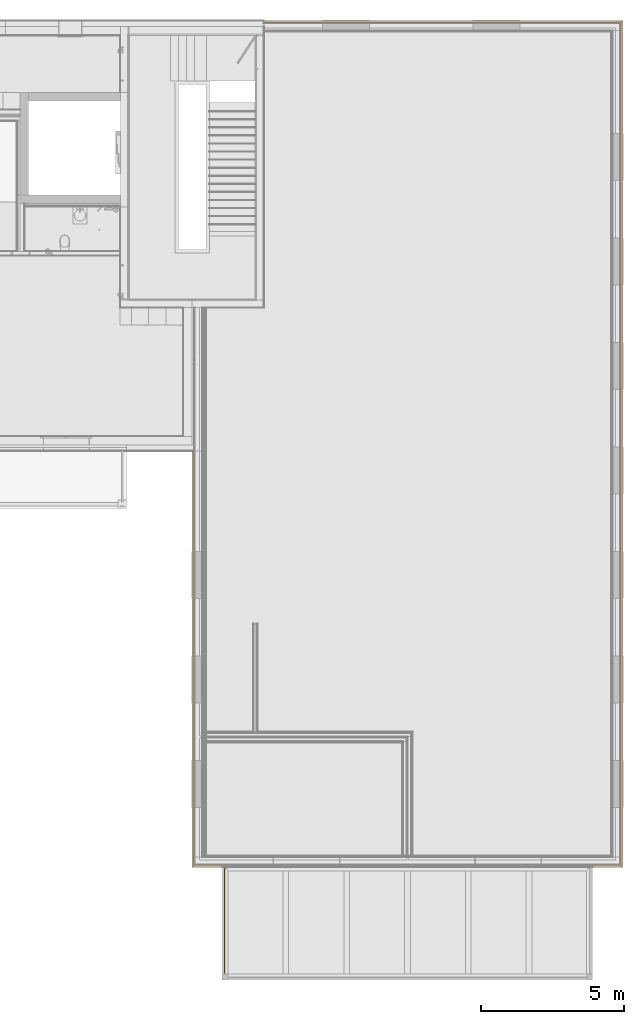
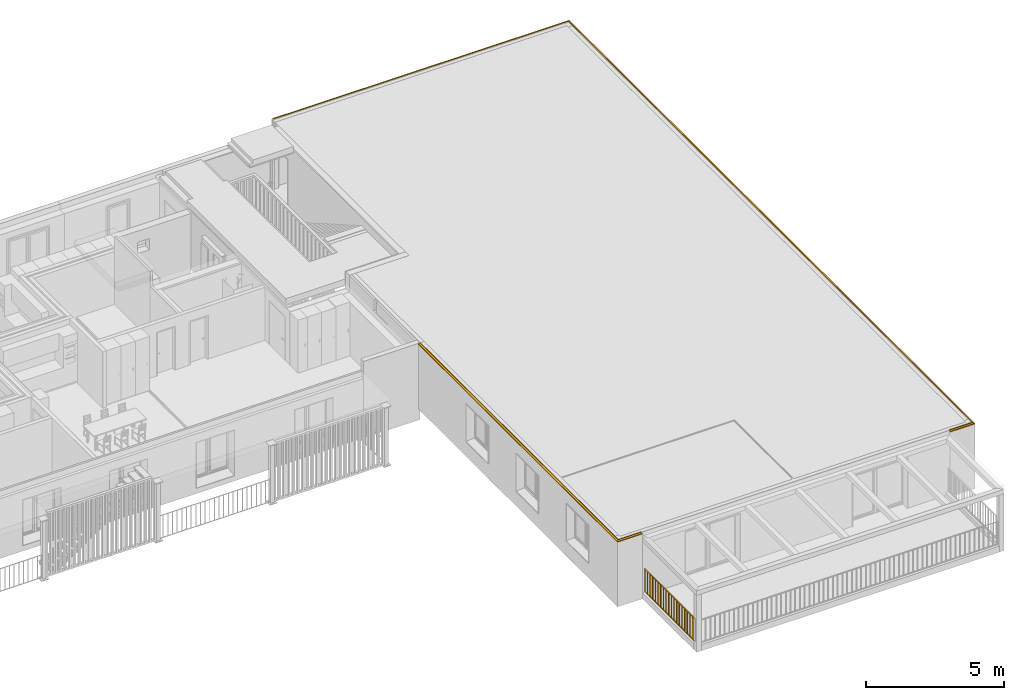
# One storey, part 19 of 34: 5 curtain walls, 1 railing.
"""IFC4 building model written with IfcOpenShell, lengths in millimetres."""

from ifc_helpers import new_model, entity, si_unit, converted_unit, derived_unit, direction, frame, origin_with_axes, place, context, subcontext, project, spatial, polygons, material, constituent, constituent_set, type_object, element, save


model = new_model("IFC4")

# Units and contexts
model_context = context("Model", 3, precision=0.01, world=origin_with_axes(), true_north=direction((0.0, 1.0)))
body_context = subcontext(model_context, "Body", "Model", "MODEL_VIEW")
ifc_project = project(units=[si_unit("LENGTHUNIT", "METRE", prefix="MILLI"), si_unit("AREAUNIT", "SQUARE_METRE"), si_unit("VOLUMEUNIT", "CUBIC_METRE"), converted_unit("PLANEANGLEUNIT", "DEGREE", entity("IfcPlaneAngleMeasure", 0.0174532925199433), si_unit("PLANEANGLEUNIT", "RADIAN"), dimensions=[0, 0, 0, 0, 0, 0, 0]), converted_unit("TIMEUNIT", "Year", entity("IfcTimeMeasure", 31557600.0), si_unit("TIMEUNIT", "SECOND"), dimensions=[0, 0, 1, 0, 0, 0, 0]), si_unit("MASSUNIT", "GRAM", prefix="KILO"), si_unit("THERMODYNAMICTEMPERATUREUNIT", "DEGREE_CELSIUS"), si_unit("LUMINOUSINTENSITYUNIT", "LUMEN"), si_unit("ENERGYUNIT", "JOULE", prefix="MEGA"), derived_unit("THERMALCONDUCTANCEUNIT", [(si_unit("POWERUNIT", "WATT"), 1), (si_unit("LENGTHUNIT", "METRE"), -1), (si_unit("THERMODYNAMICTEMPERATUREUNIT", "KELVIN"), -1)]), derived_unit("SPECIFICHEATCAPACITYUNIT", [(si_unit("ENERGYUNIT", "JOULE"), 1), (si_unit("MASSUNIT", "GRAM", prefix="KILO"), -1), (si_unit("THERMODYNAMICTEMPERATUREUNIT", "KELVIN"), -1)]), derived_unit("MASSDENSITYUNIT", [(si_unit("MASSUNIT", "GRAM", prefix="KILO"), 1), (si_unit("VOLUMEUNIT", "CUBIC_METRE"), -1)])], contexts=[model_context])

# Site, building, storey
site_placement = place(None, origin_with_axes())
site = spatial("IfcSite", under=ifc_project, at=site_placement, Name="Gelände", CompositionType="ELEMENT")
building_placement = place(site_placement, origin_with_axes())
building = spatial("IfcBuilding", under=site, at=building_placement, Name="Gebäude", CompositionType="ELEMENT")
storey_placement = place(building_placement, frame((0.0, 0.0, 5799.999999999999), z_axis=(0.0, 0.0, 1.0), x_axis=(1.0, 0.0, 0.0)))
storey = spatial("IfcBuildingStorey", under=building, at=storey_placement, Name="2.OG", CompositionType="ELEMENT", Elevation=5800.0)

# Curtain walls
ifc_material = material(Name="Stahl")
ifc_constituent_1 = constituent(ifc_material, Name="Stahl")
ifc_constituent_set_1 = constituent_set(constituents=[ifc_constituent_1], Name="Fassadentrennblech 01")
curtain_wall_type = type_object("IfcCurtainWallType", Name="Fassadentrennblech 01 80 x 71", PredefinedType="NOTDEFINED")
curtain_wall_1_placement = place(storey_placement, frame((32857.99744391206, 37876.59726257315, 3400.0), z_axis=(0.0, 0.0, 1.0), x_axis=(1.512977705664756e-09, 1.0, 0.0)))
element("IfcCurtainWall", 1, at=curtain_wall_1_placement, inside=storey, type_object=curtain_wall_type, material=ifc_constituent_set_1, Name="Unterzug-032", PredefinedType="NOTDEFINED", context=body_context, shape_type="Tessellation", body=[
    polygons([(0.0, 0.0, 9.685927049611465), (0.0, 12388.99999914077, 9.685927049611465), (77.40470302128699, 12388.99999914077, 2.044753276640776), (77.40470302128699, -77.40470290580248, 2.044753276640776), (0.0, 0.0, 42.69563025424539), (0.0, 12388.99999914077, 42.69563025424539), (2.700001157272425, 12388.99999914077, 42.69563025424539), (2.700001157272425, 12388.99999914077, 12.52688023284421), (80.10479082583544, 12388.99999914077, 4.571509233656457), (80.10474928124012, 12388.99999914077, -27.95524672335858), (77.40470302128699, 12388.99999914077, -27.95524672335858), (77.40470302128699, -77.40470290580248, -27.95524672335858), (80.1047492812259, -80.10474916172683, -27.95524672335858), (80.10479082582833, -80.10479070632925, 4.571509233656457), (2.700001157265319, -2.700001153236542, 12.52688023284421), (2.700001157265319, -2.700001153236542, 42.69563025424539)], [[[1, 2, 3, 4]], [[5, 6, 2, 1]], [[3, 2, 6, 7, 8, 9, 10, 11]], [[4, 3, 11, 12]], [[5, 1, 4, 12, 13, 14, 15, 16]], [[16, 7, 6, 5]], [[15, 8, 7, 16]], [[14, 9, 8, 15]], [[13, 10, 9, 14]], [[12, 11, 10, 13]]], closed=True),
])
ifc_constituent_2 = constituent(ifc_material, Name="Stahl")
ifc_constituent_set_2 = constituent_set(constituents=[ifc_constituent_2], Name="Fassadentrennblech 01")
curtain_wall_2_placement = place(storey_placement, frame((32857.9974432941, 8518.597281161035, 3400.0), z_axis=(0.0, 0.0, 1.0), x_axis=(0.0, 1.0, 0.0)))
element("IfcCurtainWall", 2, at=curtain_wall_2_placement, inside=storey, type_object=curtain_wall_type, material=ifc_constituent_set_2, Name="Unterzug-032", PredefinedType="NOTDEFINED", context=body_context, shape_type="Tessellation", body=[
    polygons([(0.0, 0.0, 42.69563025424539), (0.0, 975.000025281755, 42.69563025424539), (-2.700001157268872, 975.000025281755, 42.69563025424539), (-2.700001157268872, -2.700001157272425, 42.69563025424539), (0.0, 0.0, 9.685927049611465), (0.0, 975.000025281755, 9.685927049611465), (-77.40470302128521, 975.0000252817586, 2.044753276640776), (-77.40470302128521, 975.0000252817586, -27.95524672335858), (-80.10474928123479, 975.0000252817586, -27.95524672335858), (-80.10479082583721, 975.0000252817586, 4.571509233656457), (-2.700001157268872, 975.000025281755, 12.52688023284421), (-2.700001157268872, -2.700001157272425, 12.52688023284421), (-80.10479082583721, -80.10479082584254, 4.571509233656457), (-80.10474928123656, -80.10474928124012, -27.95524672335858), (-77.40470302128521, -77.4047030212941, -27.95524672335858), (-77.40470302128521, -77.4047030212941, 2.044753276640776)], [[[1, 2, 3, 4]], [[5, 6, 2, 1]], [[3, 2, 6, 7, 8, 9, 10, 11]], [[4, 3, 11, 12]], [[5, 1, 4, 12, 13, 14, 15, 16]], [[16, 7, 6, 5]], [[15, 8, 7, 16]], [[14, 9, 8, 15]], [[13, 10, 9, 14]], [[12, 11, 10, 13]]], closed=True),
])
ifc_constituent_3 = constituent(ifc_material, Name="Stahl")
ifc_constituent_set_3 = constituent_set(constituents=[ifc_constituent_3], Name="Fassadentrennblech 01")
curtain_wall_3_placement = place(storey_placement, frame((32857.99744391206, 37876.59726257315, 3400.0), z_axis=(0.0, 0.0, 1.0), x_axis=(-1.0, 0.0, 0.0)))
element("IfcCurtainWall", 3, at=curtain_wall_3_placement, inside=storey, type_object=curtain_wall_type, material=ifc_constituent_set_3, Name="Unterzug-032", PredefinedType="NOTDEFINED", context=body_context, shape_type="Tessellation", body=[
    polygons([(0.0, 0.0, 42.69563025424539), (0.0, 29357.99998141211, 42.69563025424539), (-2.700001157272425, 29360.69998256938, 42.69563025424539), (-2.700001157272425, -2.700001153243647, 42.69563025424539), (0.0, 0.0, 9.685927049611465), (0.0, 29357.99998141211, 9.685927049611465), (-77.40470302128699, 29435.4046844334, 2.044753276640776), (-77.40470302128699, 29435.4046844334, -27.95524672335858), (-80.10474928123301, 29438.10473069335, -27.95524672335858), (-80.10479082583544, 29438.10477223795, 4.571509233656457), (-2.700001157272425, 29360.69998256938, 12.52688023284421), (-2.700001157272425, -2.700001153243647, 12.52688023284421), (-80.10479082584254, -80.10479070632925, 4.571509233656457), (-80.10474928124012, -80.10474916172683, -27.95524672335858), (-77.40470302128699, -77.40470290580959, -27.95524672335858), (-77.40470302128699, -77.40470290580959, 2.044753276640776)], [[[1, 2, 3, 4]], [[5, 6, 2, 1]], [[3, 2, 6, 7, 8, 9, 10, 11]], [[4, 3, 11, 12]], [[5, 1, 4, 12, 13, 14, 15, 16]], [[16, 7, 6, 5]], [[15, 8, 7, 16]], [[14, 9, 8, 15]], [[13, 10, 9, 14]], [[12, 11, 10, 13]]], closed=True),
])
ifc_constituent_4 = constituent(ifc_material, Name="Stahl")
ifc_constituent_set_4 = constituent_set(constituents=[ifc_constituent_4], Name="Fassadentrennblech 01")
curtain_wall_4_placement = place(storey_placement, frame((17999.99744477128, 8518.597281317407, 3400.0), z_axis=(0.0, 0.0, 1.0), x_axis=(0.0, -1.0, 0.0)))
element("IfcCurtainWall", 4, at=curtain_wall_4_placement, inside=storey, type_object=curtain_wall_type, material=ifc_constituent_set_4, Name="Unterzug-032", PredefinedType="NOTDEFINED", context=body_context, shape_type="Tessellation", body=[
    polygons([(0.0, 0.0, 9.685927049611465), (0.0, 975.0000252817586, 9.685927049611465), (77.40470302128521, 975.0000252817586, 2.044753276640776), (77.40470302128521, -77.40470302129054, 2.044753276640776), (0.0, 0.0, 42.69563025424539), (0.0, 975.0000252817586, 42.69563025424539), (2.700001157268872, 975.0000252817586, 42.69563025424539), (2.700001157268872, 975.0000252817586, 12.52688023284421), (80.10479082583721, 975.0000252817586, 4.571509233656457), (80.10474928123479, 975.0000252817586, -27.95524672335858), (77.40470302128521, 975.0000252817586, -27.95524672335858), (77.40470302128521, -77.40470302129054, -27.95524672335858), (80.10474928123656, -80.10474928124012, -27.95524672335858), (80.10479082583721, -80.10479082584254, 4.571509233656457), (2.700001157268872, -2.700001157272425, 12.52688023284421), (2.700001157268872, -2.700001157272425, 42.69563025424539)], [[[1, 2, 3, 4]], [[5, 6, 2, 1]], [[3, 2, 6, 7, 8, 9, 10, 11]], [[4, 3, 11, 12]], [[5, 1, 4, 12, 13, 14, 15, 16]], [[16, 7, 6, 5]], [[15, 8, 7, 16]], [[14, 9, 8, 15]], [[13, 10, 9, 14]], [[12, 11, 10, 13]]], closed=True),
])
ifc_constituent_5 = constituent(ifc_material, Name="Stahl")
ifc_constituent_set_5 = constituent_set(constituents=[ifc_constituent_5], Name="Fassadentrennblech 01")
curtain_wall_5_placement = place(storey_placement, frame((17999.99744477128, 22947.48446271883, 3400.0), z_axis=(0.0, 0.0, 1.0), x_axis=(-1.0, 0.0, 0.0)))
element("IfcCurtainWall", 5, at=curtain_wall_5_placement, inside=storey, type_object=curtain_wall_type, material=ifc_constituent_set_5, Name="Unterzug-032", PredefinedType="NOTDEFINED", context=body_context, shape_type="Tessellation", body=[
    polygons([(80.10474928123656, 0.0, -27.95524672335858), (80.10478498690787, 0.0, 0.0), (77.40470302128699, 0.0, 0.0), (77.40470302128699, 0.0, -27.95524672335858), (80.10474928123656, 4.8877219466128, -27.95524672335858), (80.10478498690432, 4.8877219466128, 0.0), (77.40470302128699, 4.887721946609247, 0.0), (77.40470302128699, 4.887721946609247, -27.95524672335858)], [[[1, 2, 3, 4]], [[5, 6, 2, 1]], [[6, 7, 3, 2]], [[3, 7, 8, 4]], [[4, 8, 5, 1]], [[5, 8, 7, 6]]], closed=True),
    polygons([(77.40470302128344, 14506.29188442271, 2.044753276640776), (77.40470302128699, 7.587809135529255, 2.044753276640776), (72.52204029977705, 7.587809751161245, 2.526755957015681), (72.5220402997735, 0.0, 2.526755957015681), (0.0, 0.0, 9.685927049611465), (0.0, 14428.88718140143, 9.685927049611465), (77.40470302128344, 14506.29188442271, -27.95524672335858), (77.40470302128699, 7.587770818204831, -27.95524672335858), (80.10478821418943, 7.587809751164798, 2.526755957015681), (80.10474928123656, 7.587770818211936, -27.95524672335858), (80.10478821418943, 0.0, 2.526755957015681), (80.10479082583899, 0.0, 4.571509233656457), (2.700001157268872, 0.0, 12.52688023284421), (2.700001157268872, 0.0, 42.69563025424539), (0.0, 0.0, 42.69563025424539), (0.0, 14428.88718140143, 42.69563025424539), (2.700001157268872, 14431.5871825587, 42.69563025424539), (2.700001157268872, 14431.5871825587, 12.52688023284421), (80.10479082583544, 14508.99197222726, 4.571509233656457), (80.10474928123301, 14508.99193068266, -27.95524672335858)], [[[1, 2, 3, 4, 5, 6]], [[7, 8, 2, 1]], [[9, 3, 2, 8, 10]], [[9, 11, 4, 3]], [[5, 4, 11, 12, 13, 14, 15]], [[5, 15, 16, 6]], [[7, 1, 6, 16, 17, 18, 19, 20]], [[20, 10, 8, 7]], [[11, 9, 10, 20, 19, 12]], [[13, 12, 19, 18]], [[14, 13, 18, 17]], [[15, 14, 17, 16]]], closed=True),
])

# Railing
ifc_constituent_6 = constituent(ifc_material, Name="Stahl 1")
ifc_constituent_7 = constituent(ifc_material, Name="Stahl 2")
ifc_constituent_8 = constituent(ifc_material, Name="Stahl 3")
ifc_constituent_9 = constituent(ifc_material, Name="Stahl 4")
ifc_constituent_10 = constituent(ifc_material, Name="Stahl 5")
ifc_constituent_11 = constituent(ifc_material, Name="Stahl 6")
ifc_constituent_12 = constituent(ifc_material, Name="Stahl 7")
ifc_constituent_13 = constituent(ifc_material, Name="Stahl 8")
ifc_constituent_14 = constituent(ifc_material, Name="Stahl 9")
ifc_constituent_15 = constituent(ifc_material, Name="Stahl 10")
ifc_constituent_16 = constituent(ifc_material, Name="Stahl 11")
ifc_constituent_17 = constituent(ifc_material, Name="Stahl 12")
ifc_constituent_18 = constituent(ifc_material, Name="Stahl 13")
ifc_constituent_19 = constituent(ifc_material, Name="Stahl 14")
ifc_constituent_20 = constituent(ifc_material, Name="Stahl 15")
ifc_constituent_21 = constituent(ifc_material, Name="Stahl 16")
ifc_constituent_22 = constituent(ifc_material, Name="Stahl 17")
ifc_constituent_23 = constituent(ifc_material, Name="Stahl 18")
ifc_constituent_24 = constituent(ifc_material, Name="Stahl 19")
ifc_constituent_25 = constituent(ifc_material, Name="Stahl 20")
ifc_constituent_26 = constituent(ifc_material, Name="Stahl 21")
ifc_constituent_27 = constituent(ifc_material, Name="Stahl 22")
ifc_constituent_28 = constituent(ifc_material, Name="Stahl 23")
ifc_constituent_29 = constituent(ifc_material, Name="Stahl 24")
ifc_constituent_30 = constituent(ifc_material, Name="Stahl 25")
ifc_constituent_31 = constituent(ifc_material, Name="Stahl 26")
ifc_constituent_32 = constituent(ifc_material, Name="Stahl 27")
ifc_constituent_set_6 = constituent_set(constituents=[ifc_constituent_6, ifc_constituent_7, ifc_constituent_8, ifc_constituent_9, ifc_constituent_10, ifc_constituent_11, ifc_constituent_12, ifc_constituent_13, ifc_constituent_14, ifc_constituent_15, ifc_constituent_16, ifc_constituent_17, ifc_constituent_18, ifc_constituent_19, ifc_constituent_20, ifc_constituent_21, ifc_constituent_22, ifc_constituent_23, ifc_constituent_24, ifc_constituent_25, ifc_constituent_26, ifc_constituent_27, ifc_constituent_28, ifc_constituent_29, ifc_constituent_30, ifc_constituent_31, ifc_constituent_32])
railing_type = type_object("IfcRailingType", Name="Geländerart", PredefinedType="NOTDEFINED")
railing_placement = place(storey_placement, frame((19056.34286617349, 8422.597281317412, 819.0765727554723), z_axis=(0.0, 0.0, 1.0), x_axis=(1.0, 0.0, 0.0)))
element("IfcRailing", 6, at=railing_placement, inside=storey, type_object=railing_type, material=ifc_constituent_set_6, Name="Geländer-003", PredefinedType="NOTDEFINED", context=body_context, shape_type="Tessellation", body=[
    polygons([(-19.99999999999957, -7.500000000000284, 0.0), (19.99999999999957, -7.500000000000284, 0.0), (19.99999999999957, -7.500000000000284, 1000.0), (-19.99999999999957, -7.500000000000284, 1000.0), (-19.99999999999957, 7.500000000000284, 0.0), (19.99999999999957, 7.500000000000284, 0.0), (19.99999999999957, 7.500000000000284, 1000.0), (-19.99999999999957, 7.500000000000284, 1000.0)], [[[1, 2, 3, 4]], [[1, 5, 6, 2]], [[2, 6, 7, 3]], [[4, 3, 7, 8]], [[5, 1, 4, 8]], [[6, 5, 8, 7]]], closed=True),
    polygons([(22.50000000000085, 0.0, 1000.0), (22.50000000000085, 0.0, 985.0000000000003), (22.50000000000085, 7.500000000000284, 985.0000000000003), (22.50000000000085, 7.500000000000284, 1000.0), (-22.50000000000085, 0.0, 1000.0), (-22.50000000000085, 0.0, 985.0000000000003), (-22.50000000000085, 7.500000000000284, 985.0000000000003), (-22.50000000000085, 7.500000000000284, 1000.0)], [[[1, 2, 3, 4]], [[1, 5, 6, 2]], [[2, 6, 7, 3]], [[4, 3, 7, 8]], [[5, 1, 4, 8]], [[6, 5, 8, 7]]], closed=True),
    polygons([(-19.99999999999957, -3679.941464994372, 0.0), (19.99999999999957, -3679.941464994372, 0.0), (19.99999999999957, -3679.941464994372, 1000.0), (-19.99999999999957, -3679.941464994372, 1000.0), (-19.99999999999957, -3664.941464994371, 0.0), (19.99999999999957, -3664.941464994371, 0.0), (19.99999999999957, -3664.941464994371, 1000.0), (-19.99999999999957, -3664.941464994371, 1000.0)], [[[1, 2, 3, 4]], [[1, 5, 6, 2]], [[2, 6, 7, 3]], [[4, 3, 7, 8]], [[5, 1, 4, 8]], [[6, 5, 8, 7]]], closed=True),
    polygons([(-19.99999999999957, -3686.500000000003, 0.0), (19.99999999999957, -3686.500000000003, 0.0), (19.99999999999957, -3686.500000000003, 1000.0), (-19.99999999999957, -3686.500000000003, 1000.0), (-19.99999999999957, -3671.500000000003, 0.0), (19.99999999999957, -3671.500000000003, 0.0), (19.99999999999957, -3671.500000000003, 1000.0), (-19.99999999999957, -3671.500000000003, 1000.0)], [[[1, 2, 3, 4]], [[1, 5, 6, 2]], [[2, 6, 7, 3]], [[4, 3, 7, 8]], [[5, 1, 4, 8]], [[6, 5, 8, 7]]], closed=True),
    polygons([(-22.50000000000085, -3679.000000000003, 1000.0), (-22.50000000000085, -3679.000000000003, 985.0000000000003), (-22.50000000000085, -3686.500000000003, 985.0000000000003), (-22.50000000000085, -3686.500000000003, 1000.0), (22.50000000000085, -3679.000000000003, 1000.0), (22.50000000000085, -3679.000000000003, 985.0000000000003), (22.50000000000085, -3686.500000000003, 985.0000000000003), (22.50000000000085, -3686.500000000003, 1000.0)], [[[1, 2, 3, 4]], [[1, 5, 6, 2]], [[2, 6, 7, 3]], [[4, 3, 7, 8]], [[5, 1, 4, 8]], [[6, 5, 8, 7]]], closed=True),
    polygons([(-22.5, 0.0, 1.000000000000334), (-22.5, 0.0, -13.99999999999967), (-22.5, -3672.441464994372, -13.99999999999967), (-22.5, -3672.441464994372, 1.000000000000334), (22.5, 0.0, 1.000000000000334), (22.5, 0.0, -13.99999999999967), (22.5, -3672.441464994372, -13.99999999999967), (22.5, -3672.441464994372, 1.000000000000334)], [[[1, 2, 3, 4]], [[1, 5, 6, 2]], [[2, 6, 7, 3]], [[4, 3, 7, 8]], [[5, 1, 4, 8]], [[6, 5, 8, 7]]], closed=True),
    polygons([(-22.5, 0.0, 1000.0), (-22.5, 0.0, 985.0), (-22.5, -3672.441464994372, 985.0), (-22.5, -3672.441464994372, 1000.0), (22.5, 0.0, 1000.0), (22.5, 0.0, 985.0), (22.5, -3672.441464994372, 985.0), (22.5, -3672.441464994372, 1000.0)], [[[1, 2, 3, 4]], [[1, 5, 6, 2]], [[2, 6, 7, 3]], [[4, 3, 7, 8]], [[5, 1, 4, 8]], [[6, 5, 8, 7]]], closed=True),
    polygons([(-22.50000000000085, -200.7863928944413, 0.0), (22.50000000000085, -200.7863928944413, 0.0), (22.50000000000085, -200.7863928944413, 985.2293691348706), (-22.50000000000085, -200.7863928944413, 985.2293691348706), (-22.50000000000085, -185.7863928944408, 0.0), (22.50000000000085, -185.7863928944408, 0.0), (22.50000000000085, -185.7863928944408, 985.2293691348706), (-22.50000000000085, -185.7863928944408, 985.2293691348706)], [[[1, 2, 3, 4]], [[1, 5, 6, 2]], [[2, 6, 7, 3]], [[4, 3, 7, 8]], [[5, 1, 4, 8]], [[6, 5, 8, 7]]], closed=True),
    polygons([(-22.50000000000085, -394.0727857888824, 0.0), (22.50000000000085, -394.0727857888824, 0.0), (22.50000000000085, -394.0727857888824, 985.2293691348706), (-22.50000000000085, -394.0727857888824, 985.2293691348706), (-22.50000000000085, -379.0727857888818, 0.0), (22.50000000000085, -379.0727857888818, 0.0), (22.50000000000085, -379.0727857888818, 985.2293691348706), (-22.50000000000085, -379.0727857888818, 985.2293691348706)], [[[1, 2, 3, 4]], [[1, 5, 6, 2]], [[2, 6, 7, 3]], [[4, 3, 7, 8]], [[5, 1, 4, 8]], [[6, 5, 8, 7]]], closed=True),
    polygons([(-22.50000000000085, -587.3591786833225, 0.0), (22.50000000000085, -587.3591786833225, 0.0), (22.50000000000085, -587.3591786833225, 985.2293691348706), (-22.50000000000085, -587.3591786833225, 985.2293691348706), (-22.50000000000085, -572.3591786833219, 0.0), (22.50000000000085, -572.3591786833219, 0.0), (22.50000000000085, -572.3591786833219, 985.2293691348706), (-22.50000000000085, -572.3591786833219, 985.2293691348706)], [[[1, 2, 3, 4]], [[1, 5, 6, 2]], [[2, 6, 7, 3]], [[4, 3, 7, 8]], [[5, 1, 4, 8]], [[6, 5, 8, 7]]], closed=True),
    polygons([(-22.50000000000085, -780.6455715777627, 0.0), (22.50000000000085, -780.6455715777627, 0.0), (22.50000000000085, -780.6455715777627, 985.2293691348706), (-22.50000000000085, -780.6455715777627, 985.2293691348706), (-22.50000000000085, -765.6455715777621, 0.0), (22.50000000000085, -765.6455715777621, 0.0), (22.50000000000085, -765.6455715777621, 985.2293691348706), (-22.50000000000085, -765.6455715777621, 985.2293691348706)], [[[1, 2, 3, 4]], [[1, 5, 6, 2]], [[2, 6, 7, 3]], [[4, 3, 7, 8]], [[5, 1, 4, 8]], [[6, 5, 8, 7]]], closed=True),
    polygons([(-22.50000000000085, -973.9319644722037, 0.0), (22.50000000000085, -973.9319644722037, 0.0), (22.50000000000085, -973.9319644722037, 985.2293691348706), (-22.50000000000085, -973.9319644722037, 985.2293691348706), (-22.50000000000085, -958.9319644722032, 0.0), (22.50000000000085, -958.9319644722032, 0.0), (22.50000000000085, -958.9319644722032, 985.2293691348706), (-22.50000000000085, -958.9319644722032, 985.2293691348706)], [[[1, 2, 3, 4]], [[1, 5, 6, 2]], [[2, 6, 7, 3]], [[4, 3, 7, 8]], [[5, 1, 4, 8]], [[6, 5, 8, 7]]], closed=True),
    polygons([(-22.50000000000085, -1167.218357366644, 0.0), (22.50000000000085, -1167.218357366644, 0.0), (22.50000000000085, -1167.218357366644, 985.2293691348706), (-22.50000000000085, -1167.218357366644, 985.2293691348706), (-22.50000000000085, -1152.218357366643, 0.0), (22.50000000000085, -1152.218357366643, 0.0), (22.50000000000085, -1152.218357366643, 985.2293691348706), (-22.50000000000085, -1152.218357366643, 985.2293691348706)], [[[1, 2, 3, 4]], [[1, 5, 6, 2]], [[2, 6, 7, 3]], [[4, 3, 7, 8]], [[5, 1, 4, 8]], [[6, 5, 8, 7]]], closed=True),
    polygons([(-22.50000000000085, -1360.504750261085, 0.0), (22.50000000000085, -1360.504750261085, 0.0), (22.50000000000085, -1360.504750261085, 985.2293691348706), (-22.50000000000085, -1360.504750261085, 985.2293691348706), (-22.50000000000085, -1345.504750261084, 0.0), (22.50000000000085, -1345.504750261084, 0.0), (22.50000000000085, -1345.504750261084, 985.2293691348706), (-22.50000000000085, -1345.504750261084, 985.2293691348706)], [[[1, 2, 3, 4]], [[1, 5, 6, 2]], [[2, 6, 7, 3]], [[4, 3, 7, 8]], [[5, 1, 4, 8]], [[6, 5, 8, 7]]], closed=True),
    polygons([(-22.50000000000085, -1553.791143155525, 0.0), (22.50000000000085, -1553.791143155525, 0.0), (22.50000000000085, -1553.791143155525, 985.2293691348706), (-22.50000000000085, -1553.791143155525, 985.2293691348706), (-22.50000000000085, -1538.791143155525, 0.0), (22.50000000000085, -1538.791143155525, 0.0), (22.50000000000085, -1538.791143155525, 985.2293691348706), (-22.50000000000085, -1538.791143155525, 985.2293691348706)], [[[1, 2, 3, 4]], [[1, 5, 6, 2]], [[2, 6, 7, 3]], [[4, 3, 7, 8]], [[5, 1, 4, 8]], [[6, 5, 8, 7]]], closed=True),
    polygons([(-22.50000000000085, -1747.077536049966, 0.0), (22.50000000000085, -1747.077536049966, 0.0), (22.50000000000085, -1747.077536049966, 985.2293691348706), (-22.50000000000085, -1747.077536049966, 985.2293691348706), (-22.50000000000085, -1732.077536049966, 0.0), (22.50000000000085, -1732.077536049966, 0.0), (22.50000000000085, -1732.077536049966, 985.2293691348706), (-22.50000000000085, -1732.077536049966, 985.2293691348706)], [[[1, 2, 3, 4]], [[1, 5, 6, 2]], [[2, 6, 7, 3]], [[4, 3, 7, 8]], [[5, 1, 4, 8]], [[6, 5, 8, 7]]], closed=True),
    polygons([(-22.50000000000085, -1940.363928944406, 0.0), (22.50000000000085, -1940.363928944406, 0.0), (22.50000000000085, -1940.363928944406, 985.2293691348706), (-22.50000000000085, -1940.363928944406, 985.2293691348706), (-22.50000000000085, -1925.363928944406, 0.0), (22.50000000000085, -1925.363928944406, 0.0), (22.50000000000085, -1925.363928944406, 985.2293691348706), (-22.50000000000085, -1925.363928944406, 985.2293691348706)], [[[1, 2, 3, 4]], [[1, 5, 6, 2]], [[2, 6, 7, 3]], [[4, 3, 7, 8]], [[5, 1, 4, 8]], [[6, 5, 8, 7]]], closed=True),
    polygons([(-22.50000000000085, -2133.650321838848, 0.0), (22.50000000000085, -2133.650321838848, 0.0), (22.50000000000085, -2133.650321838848, 985.2293691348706), (-22.50000000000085, -2133.650321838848, 985.2293691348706), (-22.50000000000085, -2118.650321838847, 0.0), (22.50000000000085, -2118.650321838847, 0.0), (22.50000000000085, -2118.650321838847, 985.2293691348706), (-22.50000000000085, -2118.650321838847, 985.2293691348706)], [[[1, 2, 3, 4]], [[1, 5, 6, 2]], [[2, 6, 7, 3]], [[4, 3, 7, 8]], [[5, 1, 4, 8]], [[6, 5, 8, 7]]], closed=True),
    polygons([(-22.50000000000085, -2326.936714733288, 0.0), (22.50000000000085, -2326.936714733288, 0.0), (22.50000000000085, -2326.936714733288, 985.2293691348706), (-22.50000000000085, -2326.936714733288, 985.2293691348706), (-22.50000000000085, -2311.936714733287, 0.0), (22.50000000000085, -2311.936714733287, 0.0), (22.50000000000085, -2311.936714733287, 985.2293691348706), (-22.50000000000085, -2311.936714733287, 985.2293691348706)], [[[1, 2, 3, 4]], [[1, 5, 6, 2]], [[2, 6, 7, 3]], [[4, 3, 7, 8]], [[5, 1, 4, 8]], [[6, 5, 8, 7]]], closed=True),
    polygons([(-22.50000000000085, -2520.223107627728, 0.0), (22.50000000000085, -2520.223107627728, 0.0), (22.50000000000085, -2520.223107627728, 985.2293691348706), (-22.50000000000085, -2520.223107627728, 985.2293691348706), (-22.50000000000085, -2505.223107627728, 0.0), (22.50000000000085, -2505.223107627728, 0.0), (22.50000000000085, -2505.223107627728, 985.2293691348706), (-22.50000000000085, -2505.223107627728, 985.2293691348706)], [[[1, 2, 3, 4]], [[1, 5, 6, 2]], [[2, 6, 7, 3]], [[4, 3, 7, 8]], [[5, 1, 4, 8]], [[6, 5, 8, 7]]], closed=True),
    polygons([(-22.50000000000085, -2713.50950052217, 0.0), (22.50000000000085, -2713.50950052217, 0.0), (22.50000000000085, -2713.50950052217, 985.2293691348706), (-22.50000000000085, -2713.50950052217, 985.2293691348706), (-22.50000000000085, -2698.509500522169, 0.0), (22.50000000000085, -2698.509500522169, 0.0), (22.50000000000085, -2698.509500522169, 985.2293691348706), (-22.50000000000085, -2698.509500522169, 985.2293691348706)], [[[1, 2, 3, 4]], [[1, 5, 6, 2]], [[2, 6, 7, 3]], [[4, 3, 7, 8]], [[5, 1, 4, 8]], [[6, 5, 8, 7]]], closed=True),
    polygons([(-22.50000000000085, -2906.79589341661, 0.0), (22.50000000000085, -2906.79589341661, 0.0), (22.50000000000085, -2906.79589341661, 985.2293691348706), (-22.50000000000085, -2906.79589341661, 985.2293691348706), (-22.50000000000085, -2891.795893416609, 0.0), (22.50000000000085, -2891.795893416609, 0.0), (22.50000000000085, -2891.795893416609, 985.2293691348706), (-22.50000000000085, -2891.795893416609, 985.2293691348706)], [[[1, 2, 3, 4]], [[1, 5, 6, 2]], [[2, 6, 7, 3]], [[4, 3, 7, 8]], [[5, 1, 4, 8]], [[6, 5, 8, 7]]], closed=True),
    polygons([(-22.50000000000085, -3100.08228631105, 0.0), (22.50000000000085, -3100.08228631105, 0.0), (22.50000000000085, -3100.08228631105, 985.2293691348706), (-22.50000000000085, -3100.08228631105, 985.2293691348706), (-22.50000000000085, -3085.082286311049, 0.0), (22.50000000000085, -3085.082286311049, 0.0), (22.50000000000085, -3085.082286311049, 985.2293691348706), (-22.50000000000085, -3085.082286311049, 985.2293691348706)], [[[1, 2, 3, 4]], [[1, 5, 6, 2]], [[2, 6, 7, 3]], [[4, 3, 7, 8]], [[5, 1, 4, 8]], [[6, 5, 8, 7]]], closed=True),
    polygons([(-22.50000000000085, -3293.368679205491, 0.0), (22.50000000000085, -3293.368679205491, 0.0), (22.50000000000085, -3293.368679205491, 985.2293691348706), (-22.50000000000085, -3293.368679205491, 985.2293691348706), (-22.50000000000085, -3278.36867920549, 0.0), (22.50000000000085, -3278.36867920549, 0.0), (22.50000000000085, -3278.36867920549, 985.2293691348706), (-22.50000000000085, -3278.36867920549, 985.2293691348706)], [[[1, 2, 3, 4]], [[1, 5, 6, 2]], [[2, 6, 7, 3]], [[4, 3, 7, 8]], [[5, 1, 4, 8]], [[6, 5, 8, 7]]], closed=True),
    polygons([(-22.50000000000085, -3486.655072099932, 0.0), (22.50000000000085, -3486.655072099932, 0.0), (22.50000000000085, -3486.655072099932, 985.2293691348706), (-22.50000000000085, -3486.655072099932, 985.2293691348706), (-22.50000000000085, -3471.655072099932, 0.0), (22.50000000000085, -3471.655072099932, 0.0), (22.50000000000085, -3471.655072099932, 985.2293691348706), (-22.50000000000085, -3471.655072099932, 985.2293691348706)], [[[1, 2, 3, 4]], [[1, 5, 6, 2]], [[2, 6, 7, 3]], [[4, 3, 7, 8]], [[5, 1, 4, 8]], [[6, 5, 8, 7]]], closed=True),
    polygons([(-22.50000000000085, -3672.441464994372, 1.000000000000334), (-22.50000000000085, -3672.441464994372, -13.99999999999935), (-22.50000000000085, -3679.000000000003, -13.99999999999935), (-22.50000000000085, -3679.000000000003, 1.000000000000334), (22.50000000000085, -3672.441464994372, 1.000000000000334), (22.50000000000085, -3672.441464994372, -13.99999999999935), (22.50000000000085, -3679.000000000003, -13.99999999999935), (22.50000000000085, -3679.000000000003, 1.000000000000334)], [[[1, 2, 3, 4]], [[1, 5, 6, 2]], [[2, 6, 7, 3]], [[4, 3, 7, 8]], [[5, 1, 4, 8]], [[6, 5, 8, 7]]], closed=True),
    polygons([(-22.50000000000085, -3672.441464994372, 1000.0), (-22.50000000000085, -3672.441464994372, 985.0000000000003), (-22.50000000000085, -3679.000000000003, 985.0000000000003), (-22.50000000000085, -3679.000000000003, 1000.0), (22.50000000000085, -3672.441464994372, 1000.0), (22.50000000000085, -3672.441464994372, 985.0000000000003), (22.50000000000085, -3679.000000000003, 985.0000000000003), (22.50000000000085, -3679.000000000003, 1000.0)], [[[1, 2, 3, 4]], [[1, 5, 6, 2]], [[2, 6, 7, 3]], [[4, 3, 7, 8]], [[5, 1, 4, 8]], [[6, 5, 8, 7]]], closed=True),
])

save(model, "model.ifc")
